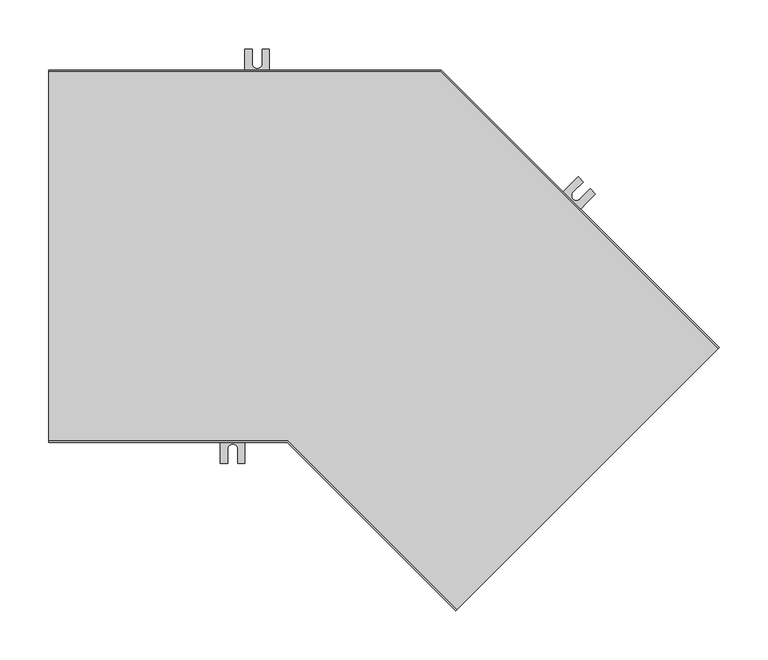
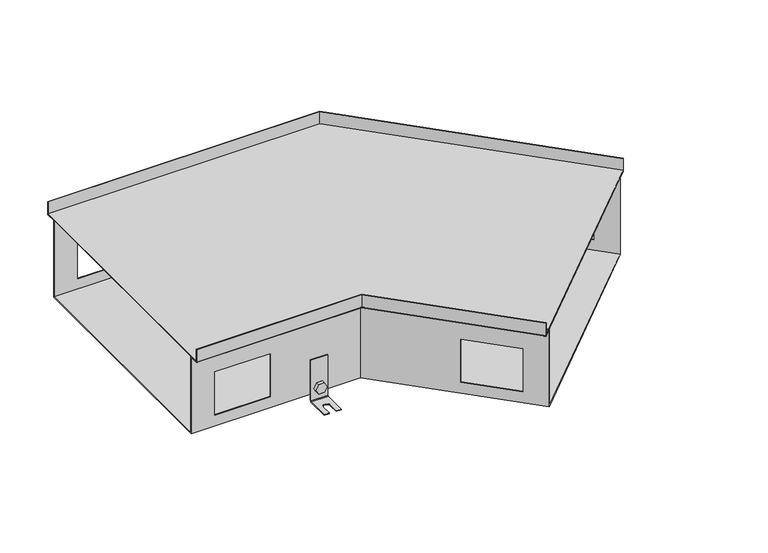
"""IFC4 building model written with IfcOpenShell, lengths in millimetres: proxy geometry, TECHNO_Угловой элемент_KVU : 380_140_135°."""

from ifc_helpers import new_model, si_unit, point, frame, frame_2d, origin, place, context, project, spatial, polyline, circle_curve, ellipse_curve, trimmed, segment, composite_curve, outline, extrude, source, transform, mapped, element, save
from ifc_brep_helpers import plane_surface, cylinder_surface, revolved_surface, advanced_brep


def mechanical_equipment_66e0d860(model_context):
    return source(origin(), model_context, "Body", "SolidModel", [
        extrude(outline(composite_curve([segment(trimmed(circle_curve(frame_2d((0.0, -7.5)), 7.5), [point((0.0, -15.0))], [point((0.0, 0.0))], False, "CARTESIAN"), True, "CONTINUOUS"), segment(trimmed(circle_curve(frame_2d((0.0, -7.5)), 7.5), [point((0.0, 0.0))], [point((0.0, -15.0))], False, "CARTESIAN"), True, "CONTINUOUS")], self_intersect=False)), frame((482.1001225, -40.233968, -130.5), z_axis=(0.7071067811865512, 0.7071067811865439, 0.0), x_axis=(0.0, 0.0, 1.0)), (0.0, 0.0, 1.0), 1.5),
        extrude(outline(polyline([(0.0, 0.0), (8.660254, 0.0), (12.990381, -7.5), (8.660254, -15.0), (0.0, -15.0), (-4.330127, -7.5), (0.0, 0.0)])), frame((466.2183246, -33.2617155, -130.5), z_axis=(0.7071067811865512, 0.7071067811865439, 0.0), x_axis=(0.3535533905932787, -0.3535533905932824, -0.8660254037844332)), (0.0, 0.0, 1.0), 5.1),
        advanced_brep(
        [(484.7871283, -44.61803, -85.5), (484.7871283, -44.61803, -148.5), (484.2214429, -45.1837154, -149.3), (460.8869191, -68.5182392, -149.3), (460.8869191, -68.5182392, -150.5), (484.2214429, -45.1837154, -150.5), (485.6356565, -43.7695019, -148.5), (485.6356565, -43.7695019, -85.5), (467.1094588, -26.9403605, -85.5), (467.9579869, -26.0918323, -85.5), (467.9579869, -26.0918323, -148.5), (466.5437734, -27.5060459, -150.5), (443.2092496, -50.8405697, -150.5), (443.2092496, -50.8405697, -149.3), (466.5437734, -27.5060459, -149.3), (467.1094588, -26.9403605, -148.5), (448.5125504, -56.1438705, -149.3), (459.1191522, -45.5372688, -149.3), (466.19022, -52.6083366, -149.3), (455.5836183, -63.2149383, -149.3), (455.5836183, -63.2149383, -150.5), (448.5125504, -56.1438705, -150.5), (466.19022, -52.6083366, -150.5), (459.1191522, -45.5372688, -150.5)],
        [
            (0, 1),
            (1, 2, circle_curve(frame((484.2214429, -45.1837154, -148.5), z_axis=(-0.7071067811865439, 0.7071067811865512, 0.0), x_axis=(-0.7071067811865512, -0.7071067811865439, 0.0)), 0.8)),
            (2, 3),
            (3, 4),
            (4, 5),
            (5, 6, circle_curve(frame((484.2214429, -45.1837154, -148.5), z_axis=(0.7071067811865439, -0.7071067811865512, 0.0), x_axis=(-0.7071067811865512, -0.7071067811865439, 0.0)), 2.0)),
            (6, 7),
            (7, 0),
            (8, 9),
            (9, 10),
            (10, 11, circle_curve(frame((466.5437734, -27.5060459, -148.5), z_axis=(-0.7071067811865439, 0.7071067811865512, 0.0), x_axis=(-0.7071067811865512, -0.7071067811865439, 0.0)), 2.0)),
            (11, 12),
            (12, 13),
            (13, 14),
            (14, 15, circle_curve(frame((466.5437734, -27.5060459, -148.5), z_axis=(0.7071067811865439, -0.7071067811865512, 0.0), x_axis=(-0.7071067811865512, -0.7071067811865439, 0.0)), 0.8)),
            (15, 8),
            (0, 8),
            (15, 1),
            (14, 2),
            (13, 16),
            (16, 17),
            (17, 18, circle_curve(frame((462.6546861, -49.0728027, -149.3), z_axis=(0.0, 0.0, -1.0), x_axis=(0.7071067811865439, -0.7071067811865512, 0.0)), 5.0)),
            (18, 19),
            (19, 3),
            (19, 20),
            (20, 4),
            (12, 21),
            (21, 16),
            (20, 22),
            (22, 23, circle_curve(frame((462.6546861, -49.0728027, -150.5), z_axis=(0.0, 0.0, 1.0), x_axis=(0.7071067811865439, -0.7071067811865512, 0.0)), 5.0)),
            (23, 21),
            (11, 5),
            (10, 6),
            (9, 7),
            (23, 17),
            (18, 22),
        ],
        [
            plane_surface(frame((484.7871283, -44.61803, -85.5), z_axis=(0.7071067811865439, -0.7071067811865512, 0.0), x_axis=(0.0, 0.0, -1.0))),
            plane_surface(frame((467.1094588, -26.9403605, -85.5), z_axis=(-0.7071067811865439, 0.7071067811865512, 0.0), x_axis=(0.0, 0.0, 1.0))),
            plane_surface(frame((484.7871283, -44.61803, -85.5), z_axis=(-0.7071067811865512, -0.7071067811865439, 0.0), x_axis=(-0.7071067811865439, 0.7071067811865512, 0.0))),
            revolved_surface(polyline([(465.97808797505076, -28.071731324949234, -148.5), (483.6557574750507, -45.74940082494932, -148.5)]), (466.5437734, -27.5060459, -148.5), (-0.7071067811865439, 0.7071067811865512, 0.0)),
            plane_surface(frame((484.2214429, -45.1837154, -149.3), z_axis=(0.0, 0.0, 1.0), x_axis=(-0.7071067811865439, 0.7071067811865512, 0.0))),
            plane_surface(frame((460.8869191, -68.5182392, -149.3), z_axis=(-0.7071067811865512, -0.7071067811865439, 0.0), x_axis=(-0.7071067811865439, 0.7071067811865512, 0.0))),
            plane_surface(frame((460.8869191, -68.5182392, -150.5), z_axis=(0.0, 0.0, -1.0), x_axis=(-0.7071067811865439, 0.7071067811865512, 0.0))),
            cylinder_surface(frame((466.5437734, -27.5060459, -148.5), z_axis=(0.7071067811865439, -0.7071067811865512, 0.0), x_axis=(-0.7071067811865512, -0.7071067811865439, 0.0)), 2.0),
            plane_surface(frame((485.6356565, -43.7695019, -148.5), z_axis=(0.7071067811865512, 0.7071067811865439, 0.0), x_axis=(-0.7071067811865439, 0.7071067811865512, 0.0))),
            plane_surface(frame((485.6356565, -43.7695019, -85.5), z_axis=(0.0, 0.0, 1.0), x_axis=(-0.7071067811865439, 0.7071067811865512, 0.0))),
            plane_surface(frame((459.1191522, -45.5372688, -149.3), z_axis=(0.7071067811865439, -0.7071067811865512, 0.0), x_axis=(0.0, 0.0, -1.0))),
            plane_surface(frame((455.5836183, -63.2149383, -149.3), z_axis=(-0.707106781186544, 0.7071067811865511, 0.0), x_axis=(0.0, 0.0, -1.0))),
            revolved_surface(polyline([(466.1902200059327, -52.608336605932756, -149.3), (466.1902200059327, -52.608336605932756, -150.5)]), (462.6546861, -49.0728027, -150.5), (0.0, 0.0, 1.0)),
        ],
        [
            (0, [[1, 2, 3, 4, 5, 6, 7, 8]]),
            (1, [[9, 10, 11, 12, 13, 14, 15, 16]]),
            (2, [[-1, 17, -16, 18]]),
            (3, [[-2, -18, -15, 19]]),
            (4, [[-3, -19, -14, 20, 21, 22, 23, 24]]),
            (5, [[-4, -24, 25, 26]]),
            (5, [[-13, 27, 28, -20]]),
            (6, [[-5, -26, 29, 30, 31, -27, -12, 32]]),
            (7, [[-6, -32, -11, 33]]),
            (8, [[-7, -33, -10, 34]]),
            (9, [[-8, -34, -9, -17]]),
            (10, [[35, -21, -28, -31]]),
            (11, [[36, -29, -25, -23]]),
            (12, [[-35, -30, -36, -22]]),
        ],
    ),
        extrude(outline(composite_curve([segment(trimmed(circle_curve(frame_2d((0.0, -7.5)), 7.5), [point((0.0, -15.0))], [point((0.0, 0.0))], False, "CARTESIAN"), True, "CONTINUOUS"), segment(trimmed(circle_curve(frame_2d((0.0, -7.5)), 7.5), [point((0.0, 0.0))], [point((0.0, -15.0))], False, "CARTESIAN"), True, "CONTINUOUS")], self_intersect=False)), frame((517.6675936, 51.9020456, -130.5), z_axis=(0.7071067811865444, 0.7071067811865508, 0.0), x_axis=(0.0, 0.0, -1.0)), (0.0, 0.0, 1.0), 1.5),
        extrude(outline(polyline([(0.0, 0.0), (4.330127, -7.5), (0.0, -15.0000001), (-8.660254, -15.0), (-12.9903811, -7.5000001), (-8.6602541, 0.0), (0.0, 0.0)])), frame((531.0038072, 42.3842087, -130.5), z_axis=(0.7071067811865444, 0.7071067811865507, 0.0), x_axis=(0.35355339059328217, -0.35355339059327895, 0.8660254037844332)), (0.0, 0.0, 1.0), 5.1),
        advanced_brep(
        [(516.041248, 57.3467678, -85.5), (516.041248, 57.3467678, -148.5), (516.6069335, 57.9124533, -149.3), (539.9414572, 81.2469771, -149.3), (539.9414572, 81.2469771, -150.5), (516.6069335, 57.9124533, -150.5), (515.1927199, 56.4982397, -148.5), (515.1927199, 56.4982397, -85.5), (533.7189176, 39.6690983, -85.5), (532.8703894, 38.8205702, -85.5), (532.8703894, 38.8205702, -148.5), (534.284603, 40.2347837, -150.5), (557.6191268, 63.5693075, -150.5), (557.6191268, 63.5693075, -149.3), (534.284603, 40.2347837, -149.3), (533.7189176, 39.6690983, -148.5), (552.3158259, 68.8726084, -149.3), (541.7092242, 58.2660067, -149.3), (534.6381564, 65.3370745, -149.3), (545.2447581, 75.9436762, -149.3), (545.2447581, 75.9436762, -150.5), (552.3158259, 68.8726084, -150.5), (534.6381564, 65.3370745, -150.5), (541.7092242, 58.2660067, -150.5)],
        [
            (0, 1),
            (1, 2, circle_curve(frame((516.6069335, 57.9124533, -148.5), z_axis=(0.7071067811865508, -0.7071067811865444, 0.0), x_axis=(0.7071067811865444, 0.7071067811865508, 0.0)), 0.8)),
            (2, 3),
            (3, 4),
            (4, 5),
            (5, 6, circle_curve(frame((516.6069335, 57.9124533, -148.5), z_axis=(-0.7071067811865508, 0.7071067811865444, 0.0), x_axis=(0.7071067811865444, 0.7071067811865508, 0.0)), 2.0)),
            (6, 7),
            (7, 0),
            (8, 9),
            (9, 10),
            (10, 11, circle_curve(frame((534.284603, 40.2347837, -148.5), z_axis=(0.7071067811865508, -0.7071067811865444, 0.0), x_axis=(0.7071067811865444, 0.7071067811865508, 0.0)), 2.0)),
            (11, 12),
            (12, 13),
            (13, 14),
            (14, 15, circle_curve(frame((534.284603, 40.2347837, -148.5), z_axis=(-0.7071067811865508, 0.7071067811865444, 0.0), x_axis=(0.7071067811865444, 0.7071067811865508, 0.0)), 0.8)),
            (15, 8),
            (0, 8),
            (15, 1),
            (14, 2),
            (13, 16),
            (16, 17),
            (17, 18, circle_curve(frame((538.1736903, 61.8015406, -149.3), z_axis=(0.0, 0.0, -1.0), x_axis=(-0.7071067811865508, 0.7071067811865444, 0.0)), 5.0)),
            (18, 19),
            (19, 3),
            (19, 20),
            (20, 4),
            (12, 21),
            (21, 16),
            (20, 22),
            (22, 23, circle_curve(frame((538.1736903, 61.8015406, -150.5), z_axis=(0.0, 0.0, 1.0), x_axis=(-0.7071067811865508, 0.7071067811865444, 0.0)), 5.0)),
            (23, 21),
            (11, 5),
            (10, 6),
            (9, 7),
            (23, 17),
            (18, 22),
        ],
        [
            plane_surface(frame((516.041248, 57.3467678, -85.5), z_axis=(-0.7071067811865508, 0.7071067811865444, 0.0), x_axis=(0.0, 0.0, -1.0))),
            plane_surface(frame((533.7189176, 39.6690983, -85.5), z_axis=(0.7071067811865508, -0.7071067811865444, 0.0), x_axis=(0.0, 0.0, 1.0))),
            plane_surface(frame((516.041248, 57.3467678, -85.5), z_axis=(0.7071067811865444, 0.7071067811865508, 0.0), x_axis=(0.7071067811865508, -0.7071067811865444, 0.0))),
            revolved_surface(polyline([(534.8502884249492, 40.800469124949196, -148.5), (517.1726188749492, 58.47813867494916, -148.5)]), (534.284603, 40.2347837, -148.5), (0.7071067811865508, -0.7071067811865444, 0.0)),
            plane_surface(frame((516.6069335, 57.9124533, -149.3), z_axis=(0.0, 0.0, 1.0000000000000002), x_axis=(0.7071067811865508, -0.7071067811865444, 0.0))),
            plane_surface(frame((539.9414572, 81.2469771, -149.3), z_axis=(0.7071067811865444, 0.7071067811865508, 0.0), x_axis=(0.7071067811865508, -0.7071067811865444, 0.0))),
            plane_surface(frame((539.9414572, 81.2469771, -150.5), z_axis=(0.0, 0.0, -1.0000000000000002), x_axis=(0.7071067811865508, -0.7071067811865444, 0.0))),
            cylinder_surface(frame((534.284603, 40.2347837, -148.5), z_axis=(-0.7071067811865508, 0.7071067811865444, 0.0), x_axis=(0.7071067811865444, 0.7071067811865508, 0.0)), 2.0),
            plane_surface(frame((515.1927199, 56.4982397, -148.5), z_axis=(-0.7071067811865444, -0.7071067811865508, 0.0), x_axis=(0.7071067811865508, -0.7071067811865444, 0.0))),
            plane_surface(frame((515.1927199, 56.4982397, -85.5), z_axis=(0.0, 0.0, 1.0000000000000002), x_axis=(0.7071067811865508, -0.7071067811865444, 0.0))),
            plane_surface(frame((541.7092242, 58.2660067, -149.3), z_axis=(-0.7071067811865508, 0.7071067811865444, 0.0), x_axis=(0.0, 0.0, -1.0))),
            plane_surface(frame((545.2447581, 75.9436762, -149.3), z_axis=(0.7071067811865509, -0.7071067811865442, 0.0), x_axis=(0.0, 0.0, -1.0))),
            revolved_surface(polyline([(534.6381563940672, 65.33707450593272, -149.3), (534.6381563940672, 65.33707450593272, -150.5)]), (538.1736903, 61.8015406, -150.5), (0.0, 0.0, 1.0)),
        ],
        [
            (0, [[1, 2, 3, 4, 5, 6, 7, 8]]),
            (1, [[9, 10, 11, 12, 13, 14, 15, 16]]),
            (2, [[-1, 17, -16, 18]]),
            (3, [[-2, -18, -15, 19]]),
            (4, [[-3, -19, -14, 20, 21, 22, 23, 24]]),
            (5, [[-4, -24, 25, 26]]),
            (5, [[-13, 27, 28, -20]]),
            (6, [[-5, -26, 29, 30, 31, -27, -12, 32]]),
            (7, [[-6, -32, -11, 33]]),
            (8, [[-7, -33, -10, 34]]),
            (9, [[-8, -34, -9, -17]]),
            (10, [[35, -21, -28, -31]]),
            (11, [[36, -29, -25, -23]]),
            (12, [[-35, -30, -36, -22]]),
        ],
    ),
        extrude(outline(composite_curve([segment(trimmed(circle_curve(frame_2d((-130.5, 212.5)), 7.5), [point((-130.5, 205.0))], [point((-130.5, 220.0))], False, "CARTESIAN"), True, "CONTINUOUS"), segment(trimmed(circle_curve(frame_2d((-130.5, 212.5)), 7.5), [point((-130.5, 220.0))], [point((-130.5, 205.0))], False, "CARTESIAN"), True, "CONTINUOUS")], self_intersect=False)), frame((0.0, 175.2, 0.0), z_axis=(0.0, 1.0, 0.0), x_axis=(0.0, 0.0, 1.0)), (0.0, 0.0, 1.0), 1.5),
        extrude(outline(polyline([(-130.5, 203.839746), (-138.0, 208.169873), (-138.0, 216.830127), (-130.5, 221.160254), (-123.0, 216.830127), (-123.0, 208.169873), (-130.5, 203.839746)])), frame((0.0, 177.9, 0.0), z_axis=(0.0, 1.0, 0.0), x_axis=(0.0, 0.0, 1.0)), (0.0, 0.0, 1.0), 5.1),
        advanced_brep(
        [(225.0, 177.9, -85.5), (225.0, 176.7, -85.5), (225.0, 176.7, -148.5), (225.0, 178.7, -150.5), (225.0, 211.7, -150.5), (225.0, 211.7, -149.3), (225.0, 178.7, -149.3), (225.0, 177.9, -148.5), (200.0, 177.9, -85.5), (200.0, 177.9, -148.5), (200.0, 178.7, -149.3), (200.0, 211.7, -149.3), (200.0, 211.7, -150.5), (200.0, 178.7, -150.5), (200.0, 176.7, -148.5), (200.0, 176.7, -85.5), (217.5, 211.7, -149.3), (217.5, 196.7, -149.3), (207.5, 196.7, -149.3), (207.5, 211.7, -149.3), (207.5, 211.7, -150.5), (217.5, 211.7, -150.5), (207.5, 196.7, -150.5), (217.5, 196.7, -150.5)],
        [
            (0, 1),
            (1, 2),
            (2, 3, circle_curve(frame((225.0, 178.7, -148.5), z_axis=(1.0, 0.0, 0.0), x_axis=(0.0, 1.0, 0.0)), 2.0)),
            (3, 4),
            (4, 5),
            (5, 6),
            (6, 7, circle_curve(frame((225.0, 178.7, -148.5), z_axis=(-1.0, 0.0, 0.0), x_axis=(0.0, 1.0, 0.0)), 0.8)),
            (7, 0),
            (8, 9),
            (9, 10, circle_curve(frame((200.0, 178.7, -148.5), z_axis=(1.0, 0.0, 0.0), x_axis=(0.0, 1.0, 0.0)), 0.8)),
            (10, 11),
            (11, 12),
            (12, 13),
            (13, 14, circle_curve(frame((200.0, 178.7, -148.5), z_axis=(-1.0, 0.0, 0.0), x_axis=(0.0, 1.0, 0.0)), 2.0)),
            (14, 15),
            (15, 8),
            (7, 9),
            (8, 0),
            (6, 10),
            (5, 16),
            (16, 17),
            (17, 18, circle_curve(frame((212.5, 196.7, -149.3), z_axis=(0.0, 0.0, -1.0), x_axis=(1.0, 0.0, 0.0)), 5.0)),
            (18, 19),
            (19, 11),
            (19, 20),
            (20, 12),
            (4, 21),
            (21, 16),
            (3, 13),
            (20, 22),
            (22, 23, circle_curve(frame((212.5, 196.7, -150.5), z_axis=(0.0, 0.0, 1.0), x_axis=(1.0, 0.0, 0.0)), 5.0)),
            (23, 21),
            (2, 14),
            (1, 15),
            (18, 22),
            (23, 17),
        ],
        [
            plane_surface(frame((225.0, 177.9, -85.5), z_axis=(1.0, 0.0, 0.0), x_axis=(0.0, 0.0, -1.0))),
            plane_surface(frame((200.0, 177.9, -85.5), z_axis=(-1.0, 0.0, 0.0), x_axis=(0.0, 0.0, 1.0))),
            plane_surface(frame((225.0, 177.9, -85.5), z_axis=(0.0, 1.0, 0.0), x_axis=(-1.0, 0.0, 0.0))),
            revolved_surface(polyline([(200.0, 179.5, -148.5), (225.0, 179.5, -148.5)]), (200.0, 178.7, -148.5), (-1.0, 0.0, 0.0)),
            plane_surface(frame((225.0, 178.7, -149.3), z_axis=(0.0, 0.0, 1.0), x_axis=(-1.0, 0.0, 0.0))),
            plane_surface(frame((225.0, 211.7, -149.3), z_axis=(0.0, 1.0, 0.0), x_axis=(-1.0, 0.0, 0.0))),
            plane_surface(frame((225.0, 211.7, -150.5), z_axis=(0.0, 0.0, -1.0), x_axis=(-1.0, 0.0, 0.0))),
            cylinder_surface(frame((200.0, 178.7, -148.5), z_axis=(1.0, 0.0, 0.0), x_axis=(0.0, 1.0, 0.0)), 2.0),
            plane_surface(frame((225.0, 176.7, -148.5), z_axis=(0.0, -1.0, 0.0), x_axis=(-1.0, 0.0, 0.0))),
            plane_surface(frame((225.0, 176.7, -85.5), z_axis=(0.0, 0.0, 1.0), x_axis=(-1.0, 0.0, 0.0))),
            plane_surface(frame((207.5, 196.7, -149.3), z_axis=(1.0, 0.0, 0.0), x_axis=(0.0, 0.0, -1.0))),
            plane_surface(frame((217.5, 211.7, -149.3), z_axis=(-1.0, 0.0, 0.0), x_axis=(0.0, 0.0, -1.0))),
            revolved_surface(polyline([(217.5, 196.7, -149.3), (217.5, 196.7, -150.5)]), (212.5, 196.7, -150.5), (0.0, 0.0, 1.0)),
        ],
        [
            (0, [[1, 2, 3, 4, 5, 6, 7, 8]]),
            (1, [[9, 10, 11, 12, 13, 14, 15, 16]]),
            (2, [[17, -9, 18, -8]]),
            (3, [[19, -10, -17, -7]]),
            (4, [[20, 21, 22, 23, 24, -11, -19, -6]]),
            (5, [[-24, 25, 26, -12]]),
            (5, [[27, 28, -20, -5]]),
            (6, [[29, -13, -26, 30, 31, 32, -27, -4]]),
            (7, [[33, -14, -29, -3]]),
            (8, [[34, -15, -33, -2]]),
            (9, [[-18, -16, -34, -1]]),
            (10, [[-30, -25, -23, 35]]),
            (11, [[-21, -28, -32, 36]]),
            (12, [[-22, -36, -31, -35]]),
        ],
    ),
        extrude(outline(composite_curve([segment(trimmed(circle_curve(frame_2d((-130.5, 187.5)), 7.5), [point((-130.5, 180.0))], [point((-130.5, 195.0))], False, "CARTESIAN"), True, "CONTINUOUS"), segment(trimmed(circle_curve(frame_2d((-130.5, 187.5)), 7.5), [point((-130.5, 195.0))], [point((-130.5, 180.0))], False, "CARTESIAN"), True, "CONTINUOUS")], self_intersect=False)), frame((0.0, -176.7, 0.0), z_axis=(0.0, 1.0, 0.0), x_axis=(0.0, 0.0, 1.0)), (0.0, 0.0, 1.0), 1.5),
        extrude(outline(polyline([(-130.5, 178.839746), (-138.0, 183.169873), (-138.0, 191.830127), (-130.5, 196.160254), (-123.0, 191.830127), (-123.0, 183.169873), (-130.5, 178.839746)])), frame((0.0, -183.0, 0.0), z_axis=(0.0, 1.0, 0.0), x_axis=(0.0, 0.0, 1.0)), (0.0, 0.0, 1.0), 5.1),
        advanced_brep(
        [(200.0, -177.9, -85.5), (200.0, -177.9, -148.5), (200.0, -178.7, -149.3), (200.0, -211.7, -149.3), (200.0, -211.7, -150.5), (200.0, -178.7, -150.5), (200.0, -176.7, -148.5), (200.0, -176.7, -85.5), (175.0, -177.9, -85.5), (175.0, -176.7, -85.5), (175.0, -176.7, -148.5), (175.0, -178.7, -150.5), (175.0, -211.7, -150.5), (175.0, -211.7, -149.3), (175.0, -178.7, -149.3), (175.0, -177.9, -148.5), (182.5, -211.7, -149.3), (182.5, -196.7, -149.3), (192.5, -196.7, -149.3), (192.5, -211.7, -149.3), (192.5, -211.7, -150.5), (182.5, -211.7, -150.5), (192.5, -196.7, -150.5), (182.5, -196.7, -150.5)],
        [
            (0, 1),
            (1, 2, circle_curve(frame((200.0, -178.7, -148.5), z_axis=(-1.0, 0.0, 0.0), x_axis=(0.0, -1.0, 0.0)), 0.8)),
            (2, 3),
            (3, 4),
            (4, 5),
            (5, 6, circle_curve(frame((200.0, -178.7, -148.5), z_axis=(1.0, 0.0, 0.0), x_axis=(0.0, -1.0, 0.0)), 2.0)),
            (6, 7),
            (7, 0),
            (8, 9),
            (9, 10),
            (10, 11, circle_curve(frame((175.0, -178.7, -148.5), z_axis=(-1.0, 0.0, 0.0), x_axis=(0.0, -1.0, 0.0)), 2.0)),
            (11, 12),
            (12, 13),
            (13, 14),
            (14, 15, circle_curve(frame((175.0, -178.7, -148.5), z_axis=(1.0, 0.0, 0.0), x_axis=(0.0, -1.0, 0.0)), 0.8)),
            (15, 8),
            (0, 8),
            (15, 1),
            (14, 2),
            (13, 16),
            (16, 17),
            (17, 18, circle_curve(frame((187.5, -196.7, -149.3), z_axis=(0.0, 0.0, -1.0), x_axis=(1.0, 0.0, 0.0)), 5.0)),
            (18, 19),
            (19, 3),
            (19, 20),
            (20, 4),
            (12, 21),
            (21, 16),
            (20, 22),
            (22, 23, circle_curve(frame((187.5, -196.7, -150.5), z_axis=(0.0, 0.0, 1.0), x_axis=(1.0, 0.0, 0.0)), 5.0)),
            (23, 21),
            (11, 5),
            (10, 6),
            (9, 7),
            (23, 17),
            (18, 22),
        ],
        [
            plane_surface(frame((200.0, -177.9, -85.5), z_axis=(1.0, 0.0, 0.0), x_axis=(0.0, 0.0, -1.0))),
            plane_surface(frame((175.0, -177.9, -85.5), z_axis=(-1.0, 0.0, 0.0), x_axis=(0.0, 0.0, 1.0))),
            plane_surface(frame((200.0, -177.9, -85.5), z_axis=(0.0, -1.0, 0.0), x_axis=(-1.0, 0.0, 0.0))),
            revolved_surface(polyline([(175.0, -179.5, -148.5), (200.0, -179.5, -148.5)]), (175.0, -178.7, -148.5), (-1.0, 0.0, 0.0)),
            plane_surface(frame((200.0, -178.7, -149.3), z_axis=(0.0, 0.0, 1.0), x_axis=(-1.0, 0.0, 0.0))),
            plane_surface(frame((200.0, -211.7, -149.3), z_axis=(0.0, -1.0, 0.0), x_axis=(-1.0, 0.0, 0.0))),
            plane_surface(frame((200.0, -211.7, -150.5), z_axis=(0.0, 0.0, -1.0), x_axis=(-1.0, 0.0, 0.0))),
            cylinder_surface(frame((175.0, -178.7, -148.5), z_axis=(1.0, 0.0, 0.0), x_axis=(0.0, -1.0, 0.0)), 2.0),
            plane_surface(frame((200.0, -176.7, -148.5), z_axis=(0.0, 1.0, 0.0), x_axis=(-1.0, 0.0, 0.0))),
            plane_surface(frame((200.0, -176.7, -85.5), z_axis=(0.0, 0.0, 1.0), x_axis=(-1.0, 0.0, 0.0))),
            plane_surface(frame((182.5, -196.7, -149.3), z_axis=(1.0, 0.0, 0.0), x_axis=(0.0, 0.0, -1.0))),
            plane_surface(frame((192.5, -211.7, -149.3), z_axis=(-1.0, 0.0, 0.0), x_axis=(0.0, 0.0, -1.0))),
            revolved_surface(polyline([(192.5, -196.7, -149.3), (192.5, -196.7, -150.5)]), (187.5, -196.7, -150.5), (0.0, 0.0, 1.0)),
        ],
        [
            (0, [[1, 2, 3, 4, 5, 6, 7, 8]]),
            (1, [[9, 10, 11, 12, 13, 14, 15, 16]]),
            (2, [[-1, 17, -16, 18]]),
            (3, [[-2, -18, -15, 19]]),
            (4, [[-3, -19, -14, 20, 21, 22, 23, 24]]),
            (5, [[-4, -24, 25, 26]]),
            (5, [[-13, 27, 28, -20]]),
            (6, [[-5, -26, 29, 30, 31, -27, -12, 32]]),
            (7, [[-6, -32, -11, 33]]),
            (8, [[-7, -33, -10, 34]]),
            (9, [[-8, -34, -9, -17]]),
            (10, [[35, -21, -28, -31]]),
            (11, [[36, -29, -25, -23]]),
            (12, [[-35, -30, -36, -22]]),
        ],
    ),
        extrude(outline(polyline([(682.8477377, -94.044794), (415.8442172, -361.0483146), (243.5959026, -188.8), (0.0, -188.8), (0.0, 188.8), (400.0029437, 188.8), (682.8477377, -94.044794)])), frame((0.0, 0.0, -19.3), z_axis=(0.0, 0.0, 1.0), x_axis=(1.0, 0.0, 0.0)), (0.0, 0.0, 1.0), 1.2),
        advanced_brep(
        [(414.995689, -361.8968427, -19.3), (415.8442172, -361.0483146, -20.5), (425.4608694, -351.4316624, -20.5), (425.4608694, -351.4316624, -140.0), (673.2310855, -103.6614462, -140.0), (673.2310855, -103.6614462, -20.5), (682.8477377, -94.044794, -20.5), (683.6962659, -93.1962659, -19.3), (683.6962659, -93.1962659, 0.0), (682.8477377, -94.044794, 0.0), (682.8477377, -94.044794, -19.3), (673.2310855, -103.6614462, -19.3), (672.3825574, -104.5099744, -20.5), (672.3825574, -104.5099744, -138.8), (426.3093975, -350.5831342, -138.8), (426.3093975, -350.5831342, -20.5), (425.4608694, -351.4316624, -19.3), (415.8442172, -361.0483146, -19.3), (415.8442172, -361.0483146, 0.0), (414.995689, -361.8968427, 0.0), (0.0, -190.0, -19.3), (0.0, -190.0, 0.0), (0.0, -188.8, 0.0), (0.0, -188.8, -19.3), (0.0, -175.2, -19.3), (0.0, -174.0, -20.5), (0.0, -174.0, -138.8), (0.0, 174.0, -138.8), (0.0, 174.0, -20.5), (0.0, 175.2, -19.3), (0.0, 188.8, -19.3), (0.0, 188.8, 0.0), (0.0, 190.0, 0.0), (0.0, 190.0, -19.3), (0.0, 188.8, -20.5), (0.0, 175.2, -20.5), (0.0, 175.2, -140.0), (0.0, -175.2, -140.0), (0.0, -175.2, -20.5), (0.0, -188.8, -20.5), (243.5959026, -188.8, -20.5), (243.0988463, -190.0, -19.3), (243.5959026, -188.8, 0.0), (243.5959026, -188.8, -19.3), (249.229207, -175.2, -140.0), (249.229207, -175.2, -20.5), (35.0, -175.2, -56.0), (117.0, -175.2, -56.0), (117.0, -175.2, -123.0), (35.0, -175.2, -123.0), (249.7262633, -174.0, -20.5), (249.7262633, -174.0, -138.8), (117.0, -174.0, -56.0), (35.0, -174.0, -56.0), (35.0, -174.0, -123.0), (117.0, -174.0, -123.0), (249.229207, -175.2, -19.3), (342.729376, -268.700169, -56.0), (400.712132, -326.682925, -56.0), (400.712132, -326.682925, -123.0), (342.729376, -268.700169, -123.0), (394.3696393, 175.2, -140.0), (393.872583, 174.0, -138.8), (401.5606602, -325.8343969, -56.0), (343.5779041, -267.8516408, -56.0), (343.5779041, -267.8516408, -123.0), (401.5606602, -325.8343969, -123.0), (243.0988463, -190.0, 0.0), (394.3696393, 175.2, -20.5), (648.4823482, -78.9127089, -56.0), (590.4995921, -20.9299528, -56.0), (590.4995921, -20.9299528, -123.0), (648.4823482, -78.9127089, -123.0), (400.0029437, 188.8, -20.5), (400.5, 190.0, -19.3), (400.5, 190.0, 0.0), (400.0029437, 188.8, 0.0), (400.0029437, 188.8, -19.3), (394.3696393, 175.2, -19.3), (393.872583, 174.0, -20.5), (589.651064, -21.778481, -56.0), (647.63382, -79.761237, -56.0), (647.63382, -79.761237, -123.0), (589.651064, -21.778481, -123.0), (117.0, 175.2, -56.0), (35.0, 175.2, -56.0), (35.0, 175.2, -123.0), (117.0, 175.2, -123.0), (35.0, 174.0, -56.0), (117.0, 174.0, -56.0), (117.0, 174.0, -123.0), (35.0, 174.0, -123.0)],
        [
            (0, 1, circle_curve(frame((415.8442172, -361.0483146, -19.3), z_axis=(0.707106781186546, -0.707106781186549, 0.0), x_axis=(-0.707106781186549, -0.707106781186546, 0.0)), 1.2)),
            (1, 2),
            (2, 3),
            (3, 4),
            (4, 5),
            (5, 6),
            (6, 7, circle_curve(frame((682.8477377, -94.044794, -19.3), z_axis=(0.707106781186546, -0.707106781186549, 0.0), x_axis=(-0.707106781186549, -0.707106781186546, 0.0)), 1.2)),
            (7, 8),
            (8, 9),
            (9, 10),
            (10, 11),
            (11, 12, circle_curve(frame((673.2310855, -103.6614462, -20.5), z_axis=(0.707106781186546, -0.707106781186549, 0.0), x_axis=(-0.707106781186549, -0.707106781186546, 0.0)), 1.2)),
            (12, 13),
            (13, 14),
            (14, 15),
            (15, 16, circle_curve(frame((425.4608694, -351.4316624, -20.5), z_axis=(0.707106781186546, -0.707106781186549, 0.0), x_axis=(-0.707106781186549, -0.707106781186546, 0.0)), 1.2)),
            (16, 17),
            (17, 18),
            (18, 19),
            (19, 0),
            (20, 21),
            (21, 22),
            (22, 23),
            (23, 24),
            (24, 25, circle_curve(frame((0.0, -175.2, -20.5), z_axis=(-1.0, 0.0, 0.0), x_axis=(0.0, -1.0, 0.0)), 1.2)),
            (25, 26),
            (26, 27),
            (27, 28),
            (28, 29, circle_curve(frame((0.0, 175.2, -20.5), z_axis=(-1.0, 0.0, 0.0), x_axis=(0.0, -1.0, 0.0)), 1.2)),
            (29, 30),
            (30, 31),
            (31, 32),
            (32, 33),
            (33, 34, circle_curve(frame((0.0, 188.8, -19.3), z_axis=(-1.0, 0.0, 0.0), x_axis=(0.0, -1.0, 0.0)), 1.2)),
            (34, 35),
            (35, 36),
            (36, 37),
            (37, 38),
            (38, 39),
            (39, 20, circle_curve(frame((0.0, -188.8, -19.3), z_axis=(-1.0, 0.0, 0.0), x_axis=(0.0, -1.0, 0.0)), 1.2)),
            (39, 40),
            (40, 41, ellipse_curve(frame((243.5959026, -188.8, -19.3), z_axis=(-0.9238795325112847, 0.3826834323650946, 0.0), x_axis=(0.3826834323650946, 0.9238795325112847, 0.0)), 1.2988706, 1.2)),
            (41, 20),
            (22, 42),
            (42, 43),
            (43, 23),
            (37, 44),
            (44, 45),
            (45, 38),
            (46, 47),
            (47, 48),
            (48, 49),
            (49, 46),
            (25, 50),
            (50, 51),
            (51, 26),
            (52, 53),
            (53, 54),
            (54, 55),
            (55, 52),
            (24, 56),
            (56, 50, ellipse_curve(frame((249.229207, -175.2, -20.5), z_axis=(-0.9238795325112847, 0.3826834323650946, 0.0), x_axis=(0.3826834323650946, 0.9238795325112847, 0.0)), 1.2988706, 1.2)),
            (0, 41),
            (40, 1),
            (45, 2),
            (44, 3),
            (57, 58),
            (58, 59),
            (59, 60),
            (60, 57),
            (36, 61),
            (61, 4),
            (13, 62),
            (62, 27),
            (51, 14),
            (50, 15),
            (63, 64),
            (64, 65),
            (65, 66),
            (66, 63),
            (56, 16),
            (43, 17),
            (42, 18),
            (21, 67),
            (67, 19),
            (61, 68),
            (68, 5),
            (69, 70),
            (70, 71),
            (71, 72),
            (72, 69),
            (68, 35),
            (34, 73),
            (73, 6),
            (73, 74, ellipse_curve(frame((400.0029437, 188.8, -19.3), z_axis=(0.9238795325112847, -0.3826834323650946, 0.0), x_axis=(-0.38268343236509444, -0.9238795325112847, 0.0)), 1.2988706, 1.2)),
            (74, 7),
            (74, 75),
            (75, 8),
            (75, 32),
            (31, 76),
            (76, 9),
            (76, 77),
            (77, 10),
            (77, 30),
            (29, 78),
            (78, 11),
            (78, 79, ellipse_curve(frame((394.3696393, 175.2, -20.5), z_axis=(0.9238795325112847, -0.3826834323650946, 0.0), x_axis=(-0.38268343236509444, -0.9238795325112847, 0.0)), 1.2988706, 1.2)),
            (79, 12),
            (79, 62),
            (80, 81),
            (81, 82),
            (82, 83),
            (83, 80),
            (84, 85),
            (85, 86),
            (86, 87),
            (87, 84),
            (33, 74),
            (28, 79),
            (88, 89),
            (89, 90),
            (90, 91),
            (91, 88),
            (41, 67),
            (46, 53),
            (52, 47),
            (88, 85),
            (84, 89),
            (49, 54),
            (91, 86),
            (48, 55),
            (90, 87),
            (57, 64),
            (63, 58),
            (80, 70),
            (69, 81),
            (66, 59),
            (72, 82),
            (65, 60),
            (71, 83),
        ],
        [
            plane_surface(frame((549.3459774, -227.5465543, 0.0), z_axis=(0.707106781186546, -0.707106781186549, 0.0), x_axis=(0.0, 0.0, 1.0))),
            plane_surface(frame((0.0, 0.0, 0.0), z_axis=(-1.0, 0.0, 0.0), x_axis=(0.0, 0.0, 1.0))),
            cylinder_surface(frame((321.7994231, -188.8, -19.3), z_axis=(1.0, 0.0, 0.0), x_axis=(0.0, -1.0, 0.0)), 1.2),
            plane_surface(frame((243.5959026, -188.8, -19.3), z_axis=(0.0, 1.0, 0.0), x_axis=(-1.0, 0.0, 0.0))),
            plane_surface(frame((249.229207, -175.2, -20.5), z_axis=(0.0, -1.0, 0.0), x_axis=(-1.0, 0.0, 0.0))),
            plane_surface(frame((249.7262633, -174.0, -138.8), z_axis=(0.0, 1.0, 0.0), x_axis=(-1.0, 0.0, 0.0))),
            cylinder_surface(frame((321.7994231, -175.2, -20.5), z_axis=(1.0, 0.0, 0.0), x_axis=(0.0, -1.0, 0.0)), 1.2),
            cylinder_surface(frame((415.8442172, -361.0483146, -19.3), z_axis=(0.707106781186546, -0.707106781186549, 0.0), x_axis=(-0.707106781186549, -0.707106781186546, 0.0)), 1.2),
            plane_surface(frame((415.8442172, -361.0483146, -20.5), z_axis=(0.0, 0.0, -1.0), x_axis=(-0.7071067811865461, 0.7071067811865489, 0.0))),
            plane_surface(frame((425.4608694, -351.4316624, -20.5), z_axis=(-0.7071067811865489, -0.7071067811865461, 0.0), x_axis=(-0.7071067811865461, 0.7071067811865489, 0.0))),
            plane_surface(frame((425.4608694, -351.4316624, -140.0), z_axis=(0.0, 0.0, -1.0), x_axis=(-0.707106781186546, 0.7071067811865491, 0.0))),
            plane_surface(frame((672.3825574, -104.5099744, -138.8), z_axis=(0.0, 0.0, 1.0), x_axis=(-0.7071067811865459, 0.7071067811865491, 0.0))),
            plane_surface(frame((426.3093975, -350.5831342, -138.8), z_axis=(0.7071067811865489, 0.7071067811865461, 0.0), x_axis=(-0.7071067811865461, 0.7071067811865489, 0.0))),
            cylinder_surface(frame((425.4608694, -351.4316624, -20.5), z_axis=(0.707106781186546, -0.707106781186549, 0.0), x_axis=(-0.707106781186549, -0.707106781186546, 0.0)), 1.2),
            plane_surface(frame((425.4608694, -351.4316624, -19.3), z_axis=(0.0, 0.0, 1.0), x_axis=(-0.7071067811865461, 0.7071067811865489, 0.0))),
            plane_surface(frame((415.8442172, -361.0483146, -19.3), z_axis=(0.707106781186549, 0.7071067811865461, 0.0), x_axis=(-0.7071067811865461, 0.707106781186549, 0.0))),
            plane_surface(frame((415.8442172, -361.0483146, 0.0), z_axis=(0.0, 0.0, 1.0), x_axis=(-0.7071067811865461, 0.707106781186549, 0.0))),
            plane_surface(frame((673.2310855, -103.6614462, -140.0), z_axis=(0.7071067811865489, 0.7071067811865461, 0.0), x_axis=(-0.7071067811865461, 0.7071067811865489, 0.0))),
            plane_surface(frame((673.2310855, -103.6614462, -20.5), z_axis=(0.0, 0.0, -1.0), x_axis=(-0.7071067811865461, 0.707106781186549, 0.0))),
            cylinder_surface(frame((682.8477377, -94.044794, -19.3), z_axis=(0.707106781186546, -0.707106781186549, 0.0), x_axis=(-0.707106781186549, -0.707106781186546, 0.0)), 1.2),
            plane_surface(frame((683.6962659, -93.1962659, -19.3), z_axis=(0.7071067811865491, 0.7071067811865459, 0.0), x_axis=(-0.7071067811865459, 0.7071067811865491, 0.0))),
            plane_surface(frame((683.6962659, -93.1962659, 0.0), z_axis=(0.0, 0.0, 1.0), x_axis=(-0.7071067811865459, 0.7071067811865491, 0.0))),
            plane_surface(frame((682.8477377, -94.044794, 0.0), z_axis=(-0.7071067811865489, -0.7071067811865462, 0.0), x_axis=(-0.7071067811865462, 0.7071067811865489, 0.0))),
            plane_surface(frame((682.8477377, -94.044794, -19.3), z_axis=(0.0, 0.0, 1.0000000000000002), x_axis=(-0.7071067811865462, 0.7071067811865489, 0.0))),
            cylinder_surface(frame((673.2310855, -103.6614462, -20.5), z_axis=(0.707106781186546, -0.707106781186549, 0.0), x_axis=(-0.707106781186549, -0.707106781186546, 0.0)), 1.2),
            plane_surface(frame((672.3825574, -104.5099744, -20.5), z_axis=(-0.7071067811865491, -0.7071067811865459, 0.0), x_axis=(-0.7071067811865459, 0.7071067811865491, 0.0))),
            plane_surface(frame((394.3696393, 175.2, -140.0), z_axis=(0.0, 1.0, 0.0), x_axis=(-1.0, 0.0, 0.0))),
            cylinder_surface(frame((321.7994231, 188.8, -19.3), z_axis=(1.0, 0.0, 0.0), x_axis=(0.0, -1.0, 0.0)), 1.2),
            plane_surface(frame((400.5, 190.0, -19.3), z_axis=(0.0, 1.0, 0.0), x_axis=(-1.0, 0.0, 0.0))),
            plane_surface(frame((400.0029437, 188.8, 0.0), z_axis=(0.0, -1.0, 0.0), x_axis=(-1.0, 0.0, 0.0))),
            cylinder_surface(frame((321.7994231, 175.2, -20.5), z_axis=(1.0, 0.0, 0.0), x_axis=(0.0, -1.0, 0.0)), 1.2),
            plane_surface(frame((393.872583, 174.0, -20.5), z_axis=(0.0, -1.0, 0.0), x_axis=(-1.0, 0.0, 0.0))),
            plane_surface(frame((243.0988463, -190.0, 0.0), z_axis=(0.0, -1.0, 0.0), x_axis=(-1.0, 0.0, 0.0))),
            plane_surface(frame((414.995689, -361.8968427, 0.0), z_axis=(-0.7071067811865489, -0.7071067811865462, 0.0), x_axis=(-0.7071067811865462, 0.7071067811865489, 0.0))),
            plane_surface(frame((35.0, 190.0, -56.0), z_axis=(0.0, 0.0, -1.0), x_axis=(0.0, -1.0, 0.0))),
            plane_surface(frame((35.0, 190.0, -123.0), z_axis=(1.0, 0.0, 0.0), x_axis=(0.0, -1.0, 0.0))),
            plane_surface(frame((117.0, 190.0, -123.0), z_axis=(0.0, 0.0, 1.0), x_axis=(0.0, -1.0, 0.0))),
            plane_surface(frame((117.0, 190.0, -56.0), z_axis=(-1.0, 0.0, 0.0), x_axis=(0.0, -1.0, 0.0))),
            plane_surface(frame((600.9647725, -10.4647725, -56.0), z_axis=(0.0, 0.0, -1.0), x_axis=(-0.707106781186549, -0.7071067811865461, 0.0))),
            plane_surface(frame((658.9475285, -68.4475285, -56.0), z_axis=(-0.7071067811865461, 0.707106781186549, 0.0), x_axis=(-0.707106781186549, -0.7071067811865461, 0.0))),
            plane_surface(frame((658.9475285, -68.4475285, -123.0), z_axis=(0.0, 0.0, 1.0), x_axis=(-0.707106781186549, -0.7071067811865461, 0.0))),
            plane_surface(frame((600.9647725, -10.4647725, -123.0), z_axis=(0.7071067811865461, -0.707106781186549, 0.0), x_axis=(-0.707106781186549, -0.7071067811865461, 0.0))),
        ],
        [
            (0, [[1, 2, 3, 4, 5, 6, 7, 8, 9, 10, 11, 12, 13, 14, 15, 16, 17, 18, 19, 20]]),
            (1, [[21, 22, 23, 24, 25, 26, 27, 28, 29, 30, 31, 32, 33, 34, 35, 36, 37, 38, 39, 40]]),
            (2, [[-40, 41, 42, 43]]),
            (3, [[-23, 44, 45, 46]]),
            (4, [[-38, 47, 48, 49], [50, 51, 52, 53]]),
            (5, [[-26, 54, 55, 56], [57, 58, 59, 60]]),
            (6, [[-25, 61, 62, -54]]),
            (7, [[-1, 63, -42, 64]]),
            (8, [[-2, -64, -41, -39, -49, 65]]),
            (9, [[-3, -65, -48, 66], [67, 68, 69, 70]]),
            (10, [[-4, -66, -47, -37, 71, 72]]),
            (11, [[-14, 73, 74, -27, -56, 75]]),
            (12, [[-15, -75, -55, 76], [77, 78, 79, 80]]),
            (13, [[-16, -76, -62, 81]]),
            (14, [[-17, -81, -61, -24, -46, 82]]),
            (15, [[-18, -82, -45, 83]]),
            (16, [[-19, -83, -44, -22, 84, 85]]),
            (17, [[-5, -72, 86, 87], [88, 89, 90, 91]]),
            (18, [[-6, -87, 92, -35, 93, 94]]),
            (19, [[-7, -94, 95, 96]]),
            (20, [[-8, -96, 97, 98]]),
            (21, [[-9, -98, 99, -32, 100, 101]]),
            (22, [[-10, -101, 102, 103]]),
            (23, [[-11, -103, 104, -30, 105, 106]]),
            (24, [[-12, -106, 107, 108]]),
            (25, [[-13, -108, 109, -73], [110, 111, 112, 113]]),
            (26, [[-36, -92, -86, -71], [114, 115, 116, 117]]),
            (27, [[-34, 118, -95, -93]]),
            (28, [[-33, -99, -97, -118]]),
            (29, [[-31, -104, -102, -100]]),
            (30, [[-29, 119, -107, -105]]),
            (31, [[-28, -74, -109, -119], [120, 121, 122, 123]]),
            (32, [[-21, -43, 124, -84]]),
            (33, [[-20, -85, -124, -63]]),
            (34, [[125, -57, 126, -50]]),
            (34, [[127, -114, 128, -120]]),
            (35, [[-125, -53, 129, -58]]),
            (35, [[-127, -123, 130, -115]]),
            (36, [[-129, -52, 131, -59]]),
            (36, [[-130, -122, 132, -116]]),
            (37, [[-131, -51, -126, -60]]),
            (37, [[-132, -121, -128, -117]]),
            (38, [[133, -77, 134, -67]]),
            (38, [[135, -88, 136, -110]]),
            (39, [[-134, -80, 137, -68]]),
            (39, [[-136, -91, 138, -111]]),
            (40, [[-137, -79, 139, -69]]),
            (40, [[-138, -90, 140, -112]]),
            (41, [[-133, -70, -139, -78]]),
            (41, [[-135, -113, -140, -89]]),
        ],
    ),
    ])


if __name__ == "__main__":
    model = new_model("IFC4")
    model_context = context("Model", 3, world=origin())
    ifc_project = project(units=[si_unit("LENGTHUNIT", "METRE", prefix="MILLI")], contexts=[model_context])
    site = spatial("IfcSite", under=ifc_project)
    building = spatial("IfcBuilding", under=site)
    placement = place(None, origin())
    mechanical_equipment_shape = mechanical_equipment_66e0d860(model_context)
    element("IfcBuildingElementProxy", 1, Name="TECHNO_Угловой элемент_KVU : 380_140_135°", ObjectType="TECHNO_Угловой элемент_KVU : 380_140_135°", at=placement, inside=building, context=model_context, shape_type="MappedRepresentation", body=[
        mapped(mechanical_equipment_shape, transform((0.0, 0.0, 0.0), x_axis=(1.0, 0.0, 0.0), y_axis=(0.0, 1.0, 0.0), z_axis=(0.0, 0.0, 1.0))),
    ])
    save(model, "model.ifc")
